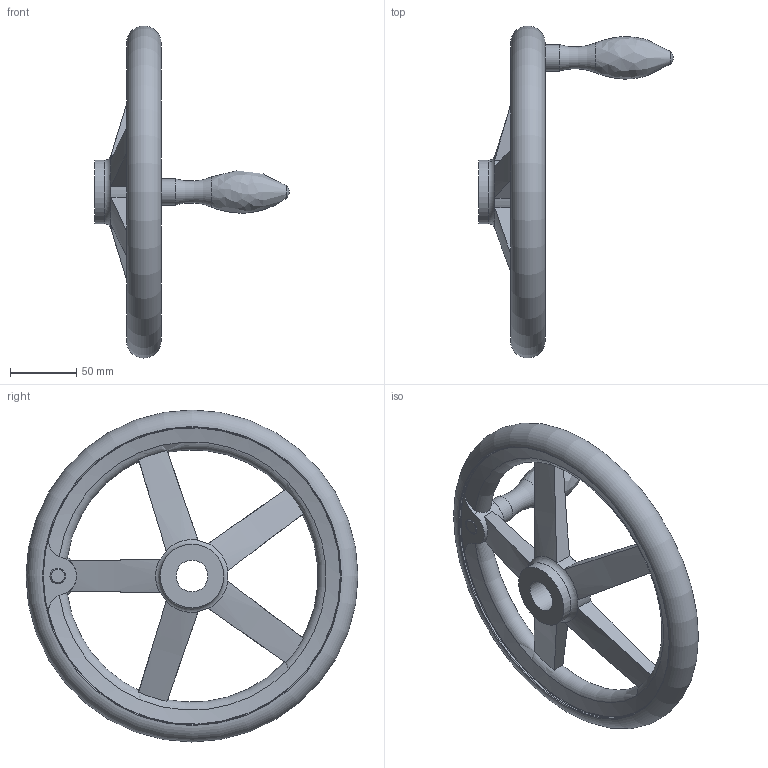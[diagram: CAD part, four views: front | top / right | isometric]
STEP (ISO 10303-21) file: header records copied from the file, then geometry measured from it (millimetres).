
FILE_DESCRIPTION( ( 'STEP AP203' ), '1' );
FILE_NAME( 'C:/Temp/Ganter_Step_05_03_2020/data/1_3/din_950/din_950_b/din_950_b_f/Handwheel DIN 950-GG-250-B24-F.stp', '2020-03-05T10:30:17', ( 'License CC BY-ND 4.0' ), ( 'CADENAS' ), ' ', 'PARTsolutions', ' ' );
FILE_SCHEMA( ( 'CONFIG_CONTROL_DESIGN' ) );
Length unit declared in the file: millimetre
Products named in the file (1): _Handwheel DIN 950-GG-250-B24-F
Bounding box: 146.5 x 250 x 250 mm (x, y, z)
Volume: 558533.9 mm3; surface area: 101956 mm2
Topology: 1 solids, 1 shells, 56 faces, 162 edges, 104 vertices
Faces by surface type: cylinder 17, plane 15, torus 13, cone 9, bspline 1, sphere 1
Full cylindrical faces by diameter (mm): 12 x1, 19.8 x1, 24 x1, 48 x2, 224 x2
Entity records: 2275 total; most frequent: CARTESIAN_POINT 921, ORIENTED_EDGE 274, DIRECTION 246, EDGE_CURVE 137, AXIS2_PLACEMENT_3D 115, VERTEX_POINT 100, EDGE_LOOP 83, FACE_OUTER_BOUND 72
